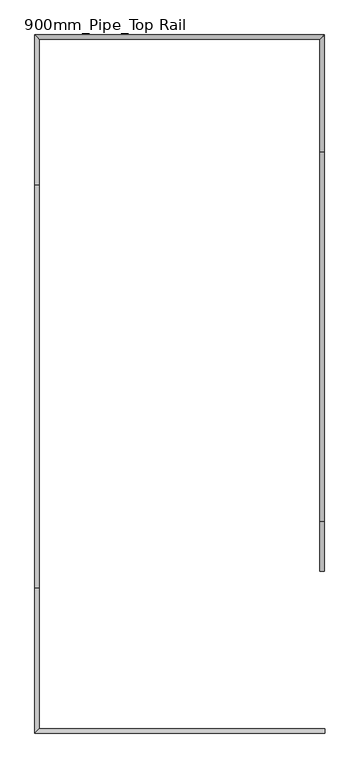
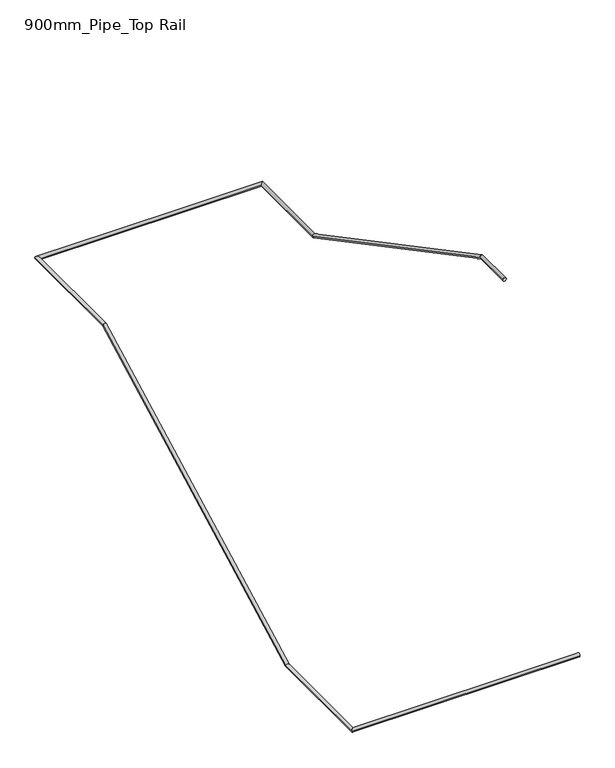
"""IFC4 building model written with IfcOpenShell, lengths in millimetres: railing geometry, 900mm_Pipe_Top Rail."""

from ifc_helpers import new_model, si_unit, frame, origin, place, context, project, spatial, circle_curve, ellipse_curve, source, transform, mapped, element, save
from ifc_brep_helpers import plane_surface, cylinder_surface, advanced_brep


def railing_900mm_pipe_top_rail_ca5293e4(model_context):
    return source(origin(), model_context, "Body", "AdvancedBrep", [
        advanced_brep(
        [(-10790.2146087, -4840.1039312, 2830.0), (-10790.2146087, -4880.1039312, 2830.0), (-13345.3216429, -4840.1039312, 2830.0), (-13385.3216429, -4880.1039312, 2830.0), (-13345.3216429, -3580.135483, 2830.0), (-13385.3216429, -3580.135483, 2830.0), (-13345.3216429, 19.864517, 4736.2857143), (-13385.3216429, 19.864517, 4736.2857143), (-13345.3216429, 1319.8960678, 4736.2857143), (-13385.3216429, 1359.8960678, 4736.2857143), (-10835.2146087, 1319.8960678, 4736.2857143), (-10795.2146087, 1359.8960678, 4736.2857143), (-10835.2146087, 309.9276185, 4736.2857143), (-10795.2146087, 309.9276185, 4736.2857143), (-10835.2146087, -2990.0723815, 6483.7142857), (-10795.2146087, -2990.0723815, 6483.7142857), (-10835.2146087, -3435.1012772, 6483.7142857), (-10795.2146087, -3435.1012772, 6483.7142857)],
        [
            (0, 1, circle_curve(frame((-10790.2146087, -4860.1039312, 2830.0), z_axis=(1.0, 0.0, 0.0), x_axis=(0.0, -1.0, 0.0)), 20.0)),
            (1, 0, circle_curve(frame((-10790.2146087, -4860.1039312, 2830.0), z_axis=(1.0, 0.0, 0.0), x_axis=(0.0, -1.0, 0.0)), 20.0)),
            (0, 2),
            (2, 3, ellipse_curve(frame((-13365.3216429, -4860.1039312, 2830.0), z_axis=(0.7071067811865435, -0.7071067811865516, 0.0), x_axis=(0.7071067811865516, 0.7071067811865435, 0.0)), 28.2842712, 20.0)),
            (3, 1),
            (3, 2, ellipse_curve(frame((-13365.3216429, -4860.1039312, 2830.0), z_axis=(0.7071067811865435, -0.7071067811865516, 0.0), x_axis=(0.7071067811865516, 0.7071067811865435, 0.0)), 28.2842712, 20.0)),
            (2, 4),
            (4, 5, ellipse_curve(frame((-13365.3216429, -3580.135483, 2830.0), z_axis=(0.0, -0.9705016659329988, -0.24109441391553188), x_axis=(0.0, -0.24109441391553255, 0.9705016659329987)), 20.6078987, 20.0)),
            (5, 3),
            (5, 4, ellipse_curve(frame((-13365.3216429, -3580.135483, 2830.0), z_axis=(0.0, -0.9705016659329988, -0.24109441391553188), x_axis=(0.0, -0.24109441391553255, 0.9705016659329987)), 20.6078987, 20.0)),
            (4, 6),
            (6, 7, ellipse_curve(frame((-13365.3216429, 19.864517, 4736.2857143), z_axis=(0.0, -0.9705016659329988, -0.2410944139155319), x_axis=(0.0, 0.2410944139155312, -0.970501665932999)), 20.6078987, 20.0)),
            (7, 5),
            (7, 6, ellipse_curve(frame((-13365.3216429, 19.864517, 4736.2857143), z_axis=(0.0, -0.9705016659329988, -0.2410944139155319), x_axis=(0.0, 0.2410944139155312, -0.970501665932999)), 20.6078987, 20.0)),
            (6, 8),
            (8, 9, ellipse_curve(frame((-13365.3216429, 1339.8960678, 4736.2857143), z_axis=(-0.7071067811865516, -0.7071067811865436, 0.0), x_axis=(0.7071067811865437, -0.7071067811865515, 0.0)), 28.2842712, 20.0)),
            (9, 7),
            (9, 8, ellipse_curve(frame((-13365.3216429, 1339.8960678, 4736.2857143), z_axis=(-0.7071067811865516, -0.7071067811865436, 0.0), x_axis=(0.7071067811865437, -0.7071067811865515, 0.0)), 28.2842712, 20.0)),
            (8, 10),
            (10, 11, ellipse_curve(frame((-10815.2146087, 1339.8960678, 4736.2857143), z_axis=(-0.7071067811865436, 0.7071067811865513, 0.0), x_axis=(-0.7071067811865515, -0.7071067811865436, 0.0)), 28.2842712, 20.0)),
            (11, 9),
            (11, 10, ellipse_curve(frame((-10815.2146087, 1339.8960678, 4736.2857143), z_axis=(-0.7071067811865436, 0.7071067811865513, 0.0), x_axis=(-0.7071067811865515, -0.7071067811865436, 0.0)), 28.2842712, 20.0)),
            (10, 12),
            (12, 13, ellipse_curve(frame((-10815.2146087, 309.9276185, 4736.2857143), z_axis=(0.0, 0.9705016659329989, -0.24109441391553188), x_axis=(0.0, 0.24109441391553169, 0.9705016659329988)), 20.6078987, 20.0)),
            (13, 11),
            (13, 12, ellipse_curve(frame((-10815.2146087, 309.9276185, 4736.2857143), z_axis=(0.0, 0.9705016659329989, -0.24109441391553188), x_axis=(0.0, 0.24109441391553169, 0.9705016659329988)), 20.6078987, 20.0)),
            (12, 14),
            (14, 15, ellipse_curve(frame((-10815.2146087, -2990.0723815, 6483.7142857), z_axis=(0.0, 0.9705016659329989, -0.24109441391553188), x_axis=(0.0, -0.24109441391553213, -0.9705016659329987)), 20.6078987, 20.0)),
            (15, 13),
            (15, 14, ellipse_curve(frame((-10815.2146087, -2990.0723815, 6483.7142857), z_axis=(0.0, 0.9705016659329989, -0.24109441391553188), x_axis=(0.0, -0.24109441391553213, -0.9705016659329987)), 20.6078987, 20.0)),
            (16, 17, circle_curve(frame((-10815.2146087, -3435.1012772, 6483.7142857), z_axis=(0.0, -1.0, 0.0), x_axis=(1.0, 0.0, 0.0)), 20.0)),
            (17, 16, circle_curve(frame((-10815.2146087, -3435.1012772, 6483.7142857), z_axis=(0.0, -1.0, 0.0), x_axis=(1.0, 0.0, 0.0)), 20.0)),
            (14, 16),
            (17, 15),
        ],
        [
            plane_surface(frame((-10790.2146087, -4860.1039312, 2850.0), z_axis=(1.0, 0.0, 0.0), x_axis=(0.0, -1.0, 0.0))),
            cylinder_surface(frame((-10790.2146087, -4860.1039312, 2830.0), z_axis=(1.0, 0.0, 0.0), x_axis=(0.0, -1.0, 0.0)), 20.0),
            cylinder_surface(frame((-13365.3216429, -4860.1039312, 2830.0), z_axis=(0.0, -1.0, 0.0), x_axis=(-1.0, 0.0, 0.0)), 20.0),
            cylinder_surface(frame((-13365.3216429, -3575.7446311, 2832.3250607), z_axis=(0.0, -0.8837469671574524, -0.46796506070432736), x_axis=(-1.0, 0.0, 0.0)), 20.0),
            cylinder_surface(frame((-13365.3216429, 14.8960677, 4736.2857143), z_axis=(0.0, -1.0, 0.0), x_axis=(-1.0, 0.0, 0.0)), 20.0),
            cylinder_surface(frame((-13365.3216429, 1339.8960678, 4736.2857143), z_axis=(-1.0, 0.0, 0.0), x_axis=(0.0, 1.0, 0.0)), 20.0),
            cylinder_surface(frame((-10815.2146087, 1339.8960678, 4736.2857143), z_axis=(0.0, 1.0, 0.0), x_axis=(1.0, 0.0, 0.0)), 20.0),
            cylinder_surface(frame((-10815.2146087, 305.5367665, 4738.6107749), z_axis=(0.0, 0.8837469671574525, -0.4679650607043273), x_axis=(1.0, 0.0, 0.0)), 20.0),
            plane_surface(frame((-10815.2146087, -3435.1012772, 6503.7142857), z_axis=(0.0, -1.0, 0.0), x_axis=(0.0, 0.0, -1.0))),
            cylinder_surface(frame((-10815.2146087, -2985.1039323, 6483.7142857), z_axis=(0.0, 1.0, 0.0), x_axis=(1.0, 0.0, 0.0)), 20.0),
        ],
        [
            (0, [[1, 2]]),
            (1, [[-1, 3, 4, 5]]),
            (1, [[-2, -5, 6, -3]]),
            (2, [[-4, 7, 8, 9]]),
            (2, [[-6, -9, 10, -7]]),
            (3, [[-8, 11, 12, 13]]),
            (3, [[-10, -13, 14, -11]]),
            (4, [[-12, 15, 16, 17]]),
            (4, [[-14, -17, 18, -15]]),
            (5, [[-16, 19, 20, 21]]),
            (5, [[-18, -21, 22, -19]]),
            (6, [[-20, 23, 24, 25]]),
            (6, [[-22, -25, 26, -23]]),
            (7, [[-24, 27, 28, 29]]),
            (7, [[-26, -29, 30, -27]]),
            (8, [[31, 32]]),
            (9, [[-28, 33, -32, 34]]),
            (9, [[-30, -34, -31, -33]]),
        ],
    ),
    ])


if __name__ == "__main__":
    model = new_model("IFC4")
    model_context = context("Model", 3, world=origin())
    ifc_project = project(units=[si_unit("LENGTHUNIT", "METRE", prefix="MILLI")], contexts=[model_context])
    site = spatial("IfcSite", under=ifc_project)
    building = spatial("IfcBuilding", under=site)
    placement = place(None, origin())
    railing_900mm_pipe_top_rail_shape = railing_900mm_pipe_top_rail_ca5293e4(model_context)
    element("IfcRailing", 1, ObjectType="900mm_Pipe_Top Rail", at=placement, inside=building, context=model_context, shape_type="MappedRepresentation", body=[
        mapped(railing_900mm_pipe_top_rail_shape, transform((0.0, 0.0, 0.0), x_axis=(1.0, 0.0, 0.0), y_axis=(0.0, 1.0, 0.0), z_axis=(0.0, 0.0, 1.0))),
    ])
    save(model, "model.ifc")
